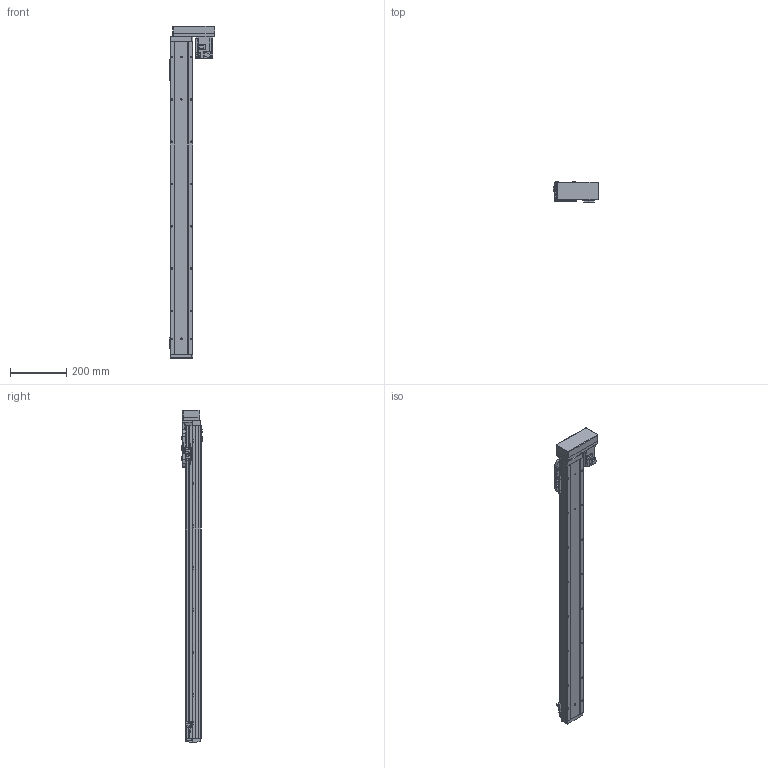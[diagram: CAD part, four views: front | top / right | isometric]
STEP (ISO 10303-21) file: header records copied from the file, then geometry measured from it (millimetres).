
FILE_DESCRIPTION (( 'STEP AP214' ), '1' );
FILE_NAME ('GSH8-950-BL-M20-1.step', '2025-01-07T06:07:18', ( '' ), ( '' ), 'SwSTEP 2.0', 'SolidWorks 2012', '' );
FILE_SCHEMA (( 'AUTOMOTIVE_DESIGN' ));
Length unit declared in the file: millimetre
Products named in the file (5): GSH8-GY-004; GSH8-950-BL-M20-1; GSH8-BL-008; GSH8-BL-011-950-M20; HG-KR23_200W_Motor
Assembly tree (4 placements, depth 2):
  GSH8-950-BL-M20-1
    GSH8-BL-011-950-M20
    GSH8-GY-004
    GSH8-BL-008
    HG-KR23_200W_Motor
Bounding box: 163 x 71.3 x 1178.2 mm (x, y, z)
Volume: 2607865.5 mm3; surface area: 684593.5 mm2
Topology: 4 solids, 8 shells, 1163 faces, 3062 edges, 1972 vertices
Faces by surface type: plane 654, cylinder 413, torus 42, cone 26, bspline 24, sphere 4
Entity records: 46648 total; most frequent: CARTESIAN_POINT 11450, DIRECTION 6218, ORIENTED_EDGE 6108, EDGE_CURVE 3054, AXIS2_PLACEMENT_3D 2096, LINE 2026, VECTOR 2026, VERTEX_POINT 1968
